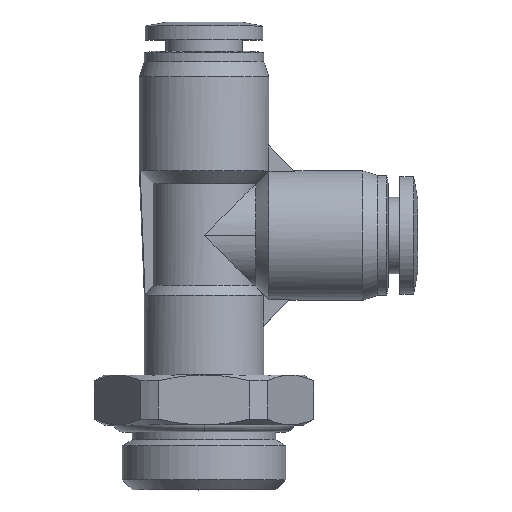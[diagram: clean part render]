
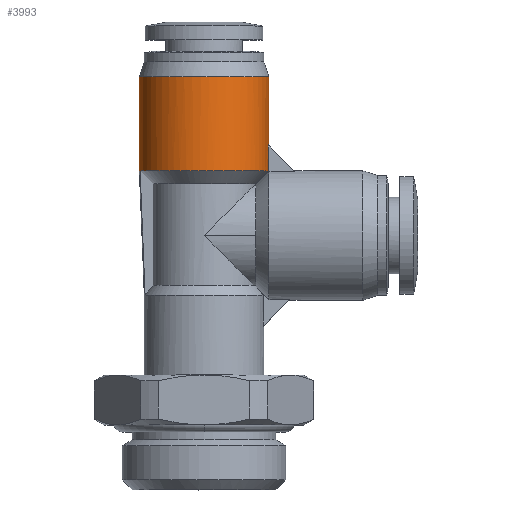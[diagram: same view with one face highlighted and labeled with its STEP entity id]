
A CAD part, top view. The second image highlights one B-rep face of the part: STEP entity #3993.
In plain terms, the highlighted cylindrical face has radius 6.5 mm (diameter 13 mm), a partial arc.
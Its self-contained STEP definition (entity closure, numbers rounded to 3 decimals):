
#23 = EDGE_CURVE ( 'NONE', #3047, #3788, #2821, .T. ) ;
#85 = CYLINDRICAL_SURFACE ( 'NONE', #94, 6.5 ) ;
#94 = AXIS2_PLACEMENT_3D ( 'NONE', #3221, #607, #983 ) ;
#166 = ORIENTED_EDGE ( 'NONE', *, *, #3536, .F. ) ;
#179 = DIRECTION ( 'NONE',  ( 0., 1., 0. ) ) ;
#208 = B_SPLINE_CURVE_WITH_KNOTS ( 'NONE', 3,
 ( #814, #1500, #4761, #2575 ),
 .UNSPECIFIED., .F., .F.,
 ( 4, 4 ),
 ( 0.5, 1. ),
 .UNSPECIFIED. ) ;
#246 = CARTESIAN_POINT ( 'NONE',  ( -0.851, 29.9, 6.5 ) ) ;
#275 = CARTESIAN_POINT ( 'NONE',  ( -1.701, 29.9, 6.331 ) ) ;
#401 = CARTESIAN_POINT ( 'NONE',  ( 6.423, 20.5, 1. ) ) ;
#425 = ORIENTED_EDGE ( 'NONE', *, *, #23, .T. ) ;
#495 = CARTESIAN_POINT ( 'NONE',  ( -6.5, 20.5, 0. ) ) ;
#553 = FACE_OUTER_BOUND ( 'NONE', #4779, .T. ) ;
#607 = DIRECTION ( 'NONE',  ( 0., 1., 0. ) ) ;
#701 = CARTESIAN_POINT ( 'NONE',  ( 6.5, 23., 0. ) ) ;
#706 = EDGE_CURVE ( 'NONE', #1006, #2071, #3018, .T. ) ;
#712 = CARTESIAN_POINT ( 'NONE',  ( 6.5, 29.9, 0. ) ) ;
#776 = CARTESIAN_POINT ( 'NONE',  ( -3.274, 29.9, 5.68 ) ) ;
#814 = CARTESIAN_POINT ( 'NONE',  ( 6.5, 23., 0. ) ) ;
#823 = VERTEX_POINT ( 'NONE', #1789 ) ;
#835 = CARTESIAN_POINT ( 'NONE',  ( -4.811, 20.5, 4.438 ) ) ;
#861 = CARTESIAN_POINT ( 'NONE',  ( 6.305, 20.5, 1.758 ) ) ;
#912 = CARTESIAN_POINT ( 'NONE',  ( 3.645, 20.5, 5.436 ) ) ;
#983 = DIRECTION ( 'NONE',  ( -1., 0., 0. ) ) ;
#1006 = VERTEX_POINT ( 'NONE', #2048 ) ;
#1112 = CARTESIAN_POINT ( 'NONE',  ( -3.995, 29.9, 5.198 ) ) ;
#1217 = CARTESIAN_POINT ( 'NONE',  ( -6.423, 20.5, 1. ) ) ;
#1243 = CARTESIAN_POINT ( 'NONE',  ( -5.198, 29.9, 3.995 ) ) ;
#1274 = CARTESIAN_POINT ( 'NONE',  ( 4.811, 20.5, 4.438 ) ) ;
#1326 = CARTESIAN_POINT ( 'NONE',  ( 2.973, 20.5, 5.831 ) ) ;
#1500 = CARTESIAN_POINT ( 'NONE',  ( 6.5, 23., 0.333 ) ) ;
#1584 = CARTESIAN_POINT ( 'NONE',  ( 6.423, 23.077, 1. ) ) ;
#1618 = CARTESIAN_POINT ( 'NONE',  ( -6.5, 25.2, 0. ) ) ;
#1662 = ORIENTED_EDGE ( 'NONE', *, *, #2145, .T. ) ;
#1700 = CARTESIAN_POINT ( 'NONE',  ( -3.645, 20.5, 5.436 ) ) ;
#1741 = VECTOR ( 'NONE', #4822, 1000. ) ;
#1784 = CARTESIAN_POINT ( 'NONE',  ( -5.304, 20.5, 3.835 ) ) ;
#1789 = CARTESIAN_POINT ( 'NONE',  ( 6.423, 23.077, 1. ) ) ;
#2012 = CARTESIAN_POINT ( 'NONE',  ( 1.701, 29.9, 6.331 ) ) ;
#2048 = CARTESIAN_POINT ( 'NONE',  ( -6.5, 20.5, 0. ) ) ;
#2056 = B_SPLINE_CURVE_WITH_KNOTS ( 'NONE', 3,
 ( #3531, #3012, #3977, #1784, #835, #1700, #2570, #5772, #4897, #2627, #3479, #1326, #912, #1274, #4815, #2682, #861, #401 ),
 .UNSPECIFIED., .F., .F.,
 ( 4, 2, 2, 2, 2, 2, 2, 2, 4 ),
 ( 0., 0.125, 0.25, 0.375, 0.5, 0.625, 0.75, 0.875, 1. ),
 .UNSPECIFIED. ) ;
#2071 = VERTEX_POINT ( 'NONE', #5177 ) ;
#2074 = CARTESIAN_POINT ( 'NONE',  ( 5.198, 29.9, 3.995 ) ) ;
#2145 = EDGE_CURVE ( 'NONE', #1006, #4512, #5343, .T. ) ;
#2540 = CARTESIAN_POINT ( 'NONE',  ( 3.995, 29.9, 5.198 ) ) ;
#2564 = CARTESIAN_POINT ( 'NONE',  ( 6.331, 29.9, 1.701 ) ) ;
#2570 = CARTESIAN_POINT ( 'NONE',  ( -2.973, 20.5, 5.831 ) ) ;
#2575 = CARTESIAN_POINT ( 'NONE',  ( 6.423, 23.077, 1. ) ) ;
#2627 = CARTESIAN_POINT ( 'NONE',  ( 0.767, 20.5, 6.5 ) ) ;
#2682 = CARTESIAN_POINT ( 'NONE',  ( 6.051, 20.5, 2.495 ) ) ;
#2821 = LINE ( 'NONE', #4176, #4676 ) ;
#2971 = ORIENTED_EDGE ( 'NONE', *, *, #706, .F. ) ;
#3012 = CARTESIAN_POINT ( 'NONE',  ( -6.305, 20.5, 1.758 ) ) ;
#3018 = LINE ( 'NONE', #1618, #1741 ) ;
#3047 = VERTEX_POINT ( 'NONE', #701 ) ;
#3221 = CARTESIAN_POINT ( 'NONE',  ( 0., 25.2, 0. ) ) ;
#3354 = CARTESIAN_POINT ( 'NONE',  ( 0.851, 29.9, 6.5 ) ) ;
#3384 = CARTESIAN_POINT ( 'NONE',  ( -5.68, 29.9, 3.274 ) ) ;
#3415 = CARTESIAN_POINT ( 'NONE',  ( -6.5, 29.9, 0.851 ) ) ;
#3424 = CARTESIAN_POINT ( 'NONE',  ( 6.423, 22.218, 1. ) ) ;
#3471 = CARTESIAN_POINT ( 'NONE',  ( -6.423, 20.5, 1. ) ) ;
#3479 = CARTESIAN_POINT ( 'NONE',  ( 1.534, 20.5, 6.363 ) ) ;
#3531 = CARTESIAN_POINT ( 'NONE',  ( -6.423, 20.5, 1. ) ) ;
#3536 = EDGE_CURVE ( 'NONE', #2071, #3788, #4390, .T. ) ;
#3788 = VERTEX_POINT ( 'NONE', #5143 ) ;
#3792 = CARTESIAN_POINT ( 'NONE',  ( -6.5, 29.9, 0. ) ) ;
#3823 = CARTESIAN_POINT ( 'NONE',  ( 5.68, 29.9, 3.274 ) ) ;
#3977 = CARTESIAN_POINT ( 'NONE',  ( -6.051, 20.5, 2.495 ) ) ;
#3993 = ADVANCED_FACE ( 'NONE', ( #553 ), #85, .T. ) ;
#4092 = EDGE_CURVE ( 'NONE', #3047, #823, #208, .T. ) ;
#4176 = CARTESIAN_POINT ( 'NONE',  ( 6.5, 25.2, 0. ) ) ;
#4221 = VERTEX_POINT ( 'NONE', #4632 ) ;
#4243 = CARTESIAN_POINT ( 'NONE',  ( -6.331, 29.9, 1.701 ) ) ;
#4286 = CARTESIAN_POINT ( 'NONE',  ( 6.423, 20.5, 1. ) ) ;
#4390 = B_SPLINE_CURVE_WITH_KNOTS ( 'NONE', 3,
 ( #3792, #3415, #4243, #3384, #1243, #1112, #776, #275, #246, #3354, #2012, #5588, #2540, #2074, #3823, #2564, #5618, #712 ),
 .UNSPECIFIED., .F., .F.,
 ( 4, 2, 2, 2, 2, 2, 2, 2, 4 ),
 ( 0., 0.063, 0.125, 0.188, 0.25, 0.313, 0.375, 0.438, 0.5 ),
 .UNSPECIFIED. ) ;
#4512 = VERTEX_POINT ( 'NONE', #1217 ) ;
#4612 = ORIENTED_EDGE ( 'NONE', *, *, #4092, .F. ) ;
#4632 = CARTESIAN_POINT ( 'NONE',  ( 6.423, 20.5, 1. ) ) ;
#4673 = EDGE_CURVE ( 'NONE', #4512, #4221, #2056, .T. ) ;
#4676 = VECTOR ( 'NONE', #179, 1000. ) ;
#4761 = CARTESIAN_POINT ( 'NONE',  ( 6.475, 23.025, 0.667 ) ) ;
#4779 = EDGE_LOOP ( 'NONE', ( #4612, #425, #166, #2971, #1662, #4791, #5096 ) ) ;
#4791 = ORIENTED_EDGE ( 'NONE', *, *, #4673, .T. ) ;
#4815 = CARTESIAN_POINT ( 'NONE',  ( 5.304, 20.5, 3.835 ) ) ;
#4819 = CARTESIAN_POINT ( 'NONE',  ( 6.423, 21.359, 1. ) ) ;
#4822 = DIRECTION ( 'NONE',  ( 0., 1., 0. ) ) ;
#4897 = CARTESIAN_POINT ( 'NONE',  ( -0.767, 20.5, 6.5 ) ) ;
#4936 = CARTESIAN_POINT ( 'NONE',  ( -6.5, 20.5, 0.335 ) ) ;
#5050 = B_SPLINE_CURVE_WITH_KNOTS ( 'NONE', 3,
 ( #1584, #3424, #4819, #4286 ),
 .UNSPECIFIED., .F., .F.,
 ( 4, 4 ),
 ( 0., 1. ),
 .UNSPECIFIED. ) ;
#5096 = ORIENTED_EDGE ( 'NONE', *, *, #5577, .F. ) ;
#5143 = CARTESIAN_POINT ( 'NONE',  ( 6.5, 29.9, 0. ) ) ;
#5177 = CARTESIAN_POINT ( 'NONE',  ( -6.5, 29.9, 0. ) ) ;
#5343 = B_SPLINE_CURVE_WITH_KNOTS ( 'NONE', 3,
 ( #495, #4936, #5429, #3471 ),
 .UNSPECIFIED., .F., .F.,
 ( 4, 4 ),
 ( 0.5, 1. ),
 .UNSPECIFIED. ) ;
#5429 = CARTESIAN_POINT ( 'NONE',  ( -6.474, 20.5, 0.669 ) ) ;
#5577 = EDGE_CURVE ( 'NONE', #823, #4221, #5050, .T. ) ;
#5588 = CARTESIAN_POINT ( 'NONE',  ( 3.274, 29.9, 5.68 ) ) ;
#5618 = CARTESIAN_POINT ( 'NONE',  ( 6.5, 29.9, 0.851 ) ) ;
#5772 = CARTESIAN_POINT ( 'NONE',  ( -1.534, 20.5, 6.363 ) ) ;
